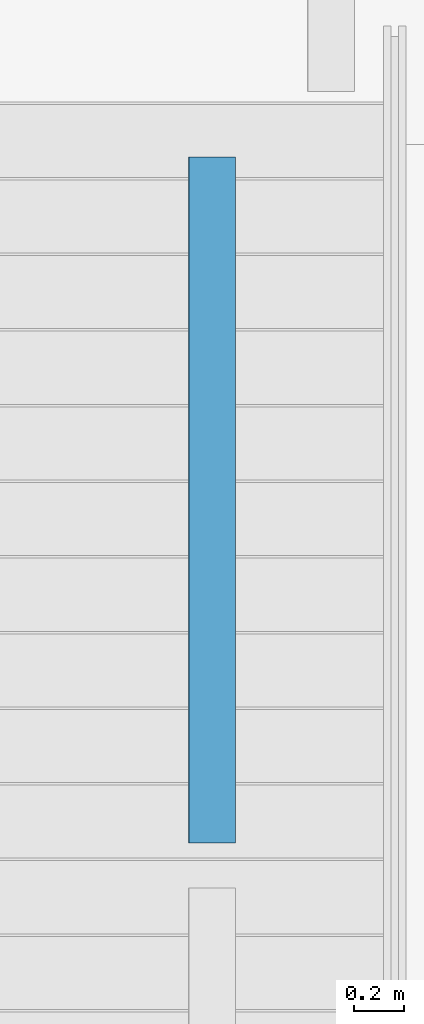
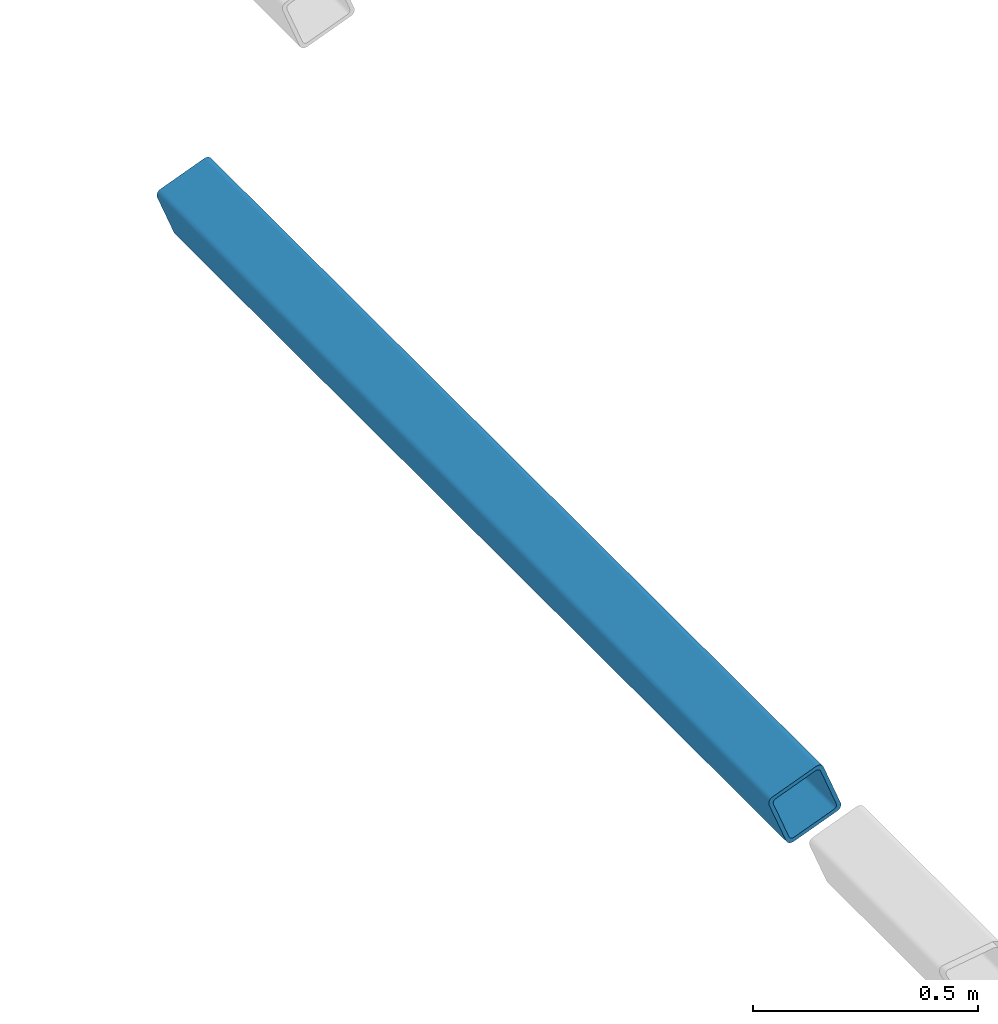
# One storey, part 27 of 42: 1 beam.
"""IFC2X3 building model written with IfcOpenShell, lengths in millimetres."""

import ifcopenshell
import ifcopenshell.guid

model = None  # the IFC model being written
_history = None  # IfcOwnerHistory: only IFC2X3 demands one
_inside = {}  # id of a spatial element -> (the spatial element, [elements in it])
_under = {}  # id of a project, library or spatial element -> (it, [spatial elements below it])
_declared = {}  # id of a project -> (the project, [libraries it declares])
_typed = {}  # id of a type object -> (the type object, [elements of that type])
_made_of = {}  # id of a material, layer set ... -> (it, [elements and type objects made of it])


def new_model(schema):
    """Start an empty IFC model of exactly this schema.

    Asked for "IFC4X3", IfcOpenShell would pick the latest addendum, in which some entities
    have other attributes; the version numbers below select the first issue.
    IFC2X3 requires an IfcOwnerHistory on every rooted entity: one is made here for all.
    """
    global model, _history
    if schema == "IFC4X3":
        model = ifcopenshell.file(schema_version=(4, 3, 0, 0))
    else:
        model = ifcopenshell.file(schema=schema)
    _inside.clear()
    _under.clear()
    _declared.clear()
    _typed.clear()
    _made_of.clear()
    _history = None
    if model.schema == "IFC2X3":
        org = make("IfcOrganization", Name="unknown")
        user = make(
            "IfcPersonAndOrganization",
            ThePerson=make("IfcPerson", FamilyName="unknown"),
            TheOrganization=org,
        )
        app = make(
            "IfcApplication",
            ApplicationDeveloper=org,
            Version="unknown",
            ApplicationFullName="unknown",
            ApplicationIdentifier="unknown",
        )
        _history = make(
            "IfcOwnerHistory",
            OwningUser=user,
            OwningApplication=app,
            ChangeAction="ADDED",
            CreationDate=0,
        )
    return model


def make(cls, **values):
    """One entity of the class cls with the attributes given. An attribute that is None is left unset."""
    return model.create_entity(
        cls, **{name: value for name, value in values.items() if value is not None}
    )


def entity(cls, *values):
    """Any entity or typed value of the class cls, its attributes in the order of the schema. None: left unset."""
    e = model.create_entity(cls)
    for i, value in enumerate(values):
        if value is not None:
            e[i] = value
    return e


def rooted(cls, **values):
    """An entity with a GlobalId (a new one), such as an element, a storey or a relation."""
    return make(cls, GlobalId=ifcopenshell.guid.new(), OwnerHistory=_history, **values)


def si_unit(unit_type, name, prefix=None):
    """IfcSIUnit, for example si_unit("LENGTHUNIT", "METRE", prefix="MILLI")."""
    return make("IfcSIUnit", UnitType=unit_type, Prefix=prefix, Name=name)


def converted_unit(unit_type, name, factor, base, dimensions=None, offset=None):
    """IfcConversionBasedUnit, such as the inch: factor (a typed value) times the base unit."""
    return make(
        "IfcConversionBasedUnit"
        if offset is None
        else "IfcConversionBasedUnitWithOffset",
        ConversionOffset=offset,
        Dimensions=None
        if dimensions is None
        else entity("IfcDimensionalExponents", *dimensions),
        UnitType=unit_type,
        Name=name,
        ConversionFactor=make(
            "IfcMeasureWithUnit", ValueComponent=factor, UnitComponent=base
        ),
    )


def derived_unit(unit_type, elements):
    """IfcDerivedUnit: a product of units, each with its exponent."""
    return make(
        "IfcDerivedUnit",
        Elements=[
            make("IfcDerivedUnitElement", Unit=unit, Exponent=power)
            for unit, power in elements
        ],
        UnitType=unit_type,
    )


def assignment(units):
    """IfcUnitAssignment: the units of a project."""
    return None if units is None else make("IfcUnitAssignment", Units=units)


def point(xyz):
    """IfcCartesianPoint."""
    return None if xyz is None else make("IfcCartesianPoint", Coordinates=xyz)


def direction(xyz):
    """IfcDirection."""
    return None if xyz is None else make("IfcDirection", DirectionRatios=xyz)


def frame(location, z_axis=None, x_axis=None):
    """IfcAxis2Placement3D, a coordinate frame: its origin and axes. An axis left out is left unset."""
    return make(
        "IfcAxis2Placement3D",
        Location=point(location),
        Axis=direction(z_axis),
        RefDirection=direction(x_axis),
    )


def frame_2d(location, x_axis=None):
    """IfcAxis2Placement2D, a coordinate frame in the plane: its origin and x axis."""
    return make(
        "IfcAxis2Placement2D", Location=point(location), RefDirection=direction(x_axis)
    )


def origin():
    """The frame at (0, 0, 0) with its axes left unset."""
    return frame((0.0, 0.0, 0.0))


def place(relative_to, where):
    """IfcLocalPlacement: puts the frame where relative to a parent placement (None: the world)."""
    return make(
        "IfcLocalPlacement", PlacementRelTo=relative_to, RelativePlacement=where
    )


def context(
    kind, dimensions, precision=None, world=None, true_north=None, identifier=None
):
    """IfcGeometricRepresentationContext, for example the 3D "Model" context."""
    return make(
        "IfcGeometricRepresentationContext",
        ContextIdentifier=identifier,
        ContextType=kind,
        CoordinateSpaceDimension=dimensions,
        Precision=precision,
        WorldCoordinateSystem=world,
        TrueNorth=true_north,
    )


def subcontext(parent, identifier, kind, view, scale=None):
    """IfcGeometricRepresentationSubContext, for example "Body" below "Model"."""
    return make(
        "IfcGeometricRepresentationSubContext",
        ContextIdentifier=identifier,
        ContextType=kind,
        ParentContext=parent,
        TargetScale=scale,
        TargetView=view,
    )


def project(units=None, contexts=None):
    """IfcProject with its units and contexts."""
    return rooted(
        "IfcProject",
        Name="project",
        RepresentationContexts=contexts,
        UnitsInContext=assignment(units),
    )


def spatial(cls, under=None, at=None, **own):
    """A site, building, storey or space (cls), placed at a placement, below another one or the project."""
    s = rooted(cls, ObjectPlacement=at, **own)
    if under is not None:
        _under.setdefault(under.id(), (under, []))[1].append(s)
    return s


def polyline(points):
    """IfcPolyline through the points."""
    return make("IfcPolyline", Points=[point(p) for p in points])


def circle_curve(where, radius):
    """IfcCircle in the frame where."""
    return make("IfcCircle", Position=where, Radius=radius)


def parameter(value):
    """IfcParameterValue: where a trimmed curve begins or ends, as a parameter of its basis curve."""
    return model.create_entity("IfcParameterValue", value)


def trimmed(basis, trim1, trim2, sense, master):
    """IfcTrimmedCurve: the piece of a basis curve between two trims."""
    return make(
        "IfcTrimmedCurve",
        BasisCurve=basis,
        Trim1=trim1,
        Trim2=trim2,
        SenseAgreement=sense,
        MasterRepresentation=master,
    )


def segment(curve, same_sense, transition):
    """IfcCompositeCurveSegment."""
    return make(
        "IfcCompositeCurveSegment",
        Transition=transition,
        SameSense=same_sense,
        ParentCurve=curve,
    )


def composite_curve(segments, self_intersect=None):
    """IfcCompositeCurve: segments joined end to end."""
    return make("IfcCompositeCurve", Segments=segments, SelfIntersect=self_intersect)


def outline(outer, holes=None, kind="AREA"):
    """IfcArbitraryClosedProfileDef: a profile drawn as a closed curve; with holes, ...WithVoids."""
    if holes is None:
        return make("IfcArbitraryClosedProfileDef", ProfileType=kind, OuterCurve=outer)
    return make(
        "IfcArbitraryProfileDefWithVoids",
        ProfileType=kind,
        OuterCurve=outer,
        InnerCurves=holes,
    )


def extrude(swept, where, along, depth):
    """IfcExtrudedAreaSolid: the profile swept, set in the frame where, extruded along a direction by depth."""
    return make(
        "IfcExtrudedAreaSolid",
        SweptArea=swept,
        Position=where,
        ExtrudedDirection=direction(along),
        Depth=depth,
    )


def shape(context_of_items, identifier, shape_type, items):
    """IfcShapeRepresentation: the items that make up one representation, for example the "Body"."""
    return make(
        "IfcShapeRepresentation",
        ContextOfItems=context_of_items,
        RepresentationIdentifier=identifier,
        RepresentationType=shape_type,
        Items=items,
    )


def material(Name=None, Category=None):
    """IfcMaterial."""
    return make("IfcMaterial", Name=Name, Category=Category)


def made_of(thing, what):
    """Note that an element or type object is made of a material, layer set ...; save() writes the relation."""
    if what is not None:
        _made_of.setdefault(what.id(), (what, []))[1].append(thing)
    return thing


def type_object(cls, material=None, **own):
    """A type object (cls), such as IfcWallType, which elements share."""
    return made_of(rooted(cls, **own), material)


def element(
    cls,
    number,
    at=None,
    inside=None,
    cuts=None,
    type_object=None,
    material=None,
    context=None,
    identifier="Body",
    shape_type=None,
    held_by="IfcProductDefinitionShape",
    body=None,
    shapes=None,
    **own,
):
    """One element of the class cls, such as IfcWall. Its Tag is "e" and its number.

    at: its placement. inside: the storey or other place that contains it. cuts: it is an
    opening in that element (IfcRelVoidsElement). A single representation is given by context,
    identifier, shape_type and body (its items); several are given by shapes. held_by: the class
    of the entity that holds the representations. save() writes the other relations.
    """
    e = rooted(cls, Tag="e%d" % number, ObjectPlacement=at, **own)
    if body is not None:
        shapes = [shape(context, identifier, shape_type, body)]
    if shapes is not None:
        e.Representation = make(held_by, Representations=shapes)
    if inside is not None:
        _inside.setdefault(inside.id(), (inside, []))[1].append(e)
    if cuts is not None:
        rooted(
            "IfcRelVoidsElement", RelatingBuildingElement=cuts, RelatedOpeningElement=e
        )
    if type_object is not None:
        _typed.setdefault(type_object.id(), (type_object, []))[1].append(e)
    return made_of(e, material)


def aggregate(whole, parts):
    """IfcRelAggregates: a whole, such as a stair, and the parts it consists of."""
    return rooted("IfcRelAggregates", RelatingObject=whole, RelatedObjects=parts)


def save(model, path):
    """Write the relations noted so far, then the file.

    IfcRelAggregates (storeys below a building ...), IfcRelContainedInSpatialStructure (elements
    in a storey), IfcRelDefinesByType, IfcRelAssociatesMaterial and IfcRelDeclares: one each for
    every whole, place, type object, material and project.
    """
    for whole, parts in _under.values():
        aggregate(whole, parts)
    for where, things in _inside.values():
        rooted(
            "IfcRelContainedInSpatialStructure",
            RelatedElements=things,
            RelatingStructure=where,
        )
    for kind, things in _typed.values():
        rooted("IfcRelDefinesByType", RelatedObjects=things, RelatingType=kind)
    for what, things in _made_of.values():
        rooted("IfcRelAssociatesMaterial", RelatedObjects=things, RelatingMaterial=what)
    for by, libraries in _declared.values():
        rooted("IfcRelDeclares", RelatingContext=by, RelatedDefinitions=libraries)
    model.write(path)


model = new_model("IFC2X3")

# Units and contexts
model_context = context("Model", 3, precision=0.01, world=origin(), true_north=direction((6.12303176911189e-17, 1.0)))
body_context = subcontext(model_context, "Body", "Model", "MODEL_VIEW")
ifc_project = project(units=[si_unit("LENGTHUNIT", "METRE", prefix="MILLI"), si_unit("AREAUNIT", "SQUARE_METRE", prefix="MILLI"), si_unit("VOLUMEUNIT", "CUBIC_METRE"), converted_unit("PLANEANGLEUNIT", "DEGREE", entity("IfcRatioMeasure", 0.0174532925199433), si_unit("PLANEANGLEUNIT", "RADIAN"), dimensions=[0, 0, 0, 0, 0, 0, 0]), si_unit("MASSUNIT", "GRAM", prefix="KILO"), derived_unit("MASSDENSITYUNIT", [(si_unit("MASSUNIT", "GRAM", prefix="KILO"), 1), (si_unit("LENGTHUNIT", "METRE"), -3)]), derived_unit("MOMENTOFINERTIAUNIT", [(si_unit("LENGTHUNIT", "METRE"), 4)]), si_unit("TIMEUNIT", "SECOND"), si_unit("FREQUENCYUNIT", "HERTZ"), si_unit("THERMODYNAMICTEMPERATUREUNIT", "DEGREE_CELSIUS"), derived_unit("THERMALTRANSMITTANCEUNIT", [(si_unit("MASSUNIT", "GRAM", prefix="KILO"), 1), (si_unit("THERMODYNAMICTEMPERATUREUNIT", "KELVIN"), -1), (si_unit("TIMEUNIT", "SECOND"), -3)]), derived_unit("VOLUMETRICFLOWRATEUNIT", [(si_unit("LENGTHUNIT", "METRE"), 3), (si_unit("TIMEUNIT", "SECOND"), -1)]), si_unit("ELECTRICCURRENTUNIT", "AMPERE"), si_unit("ELECTRICVOLTAGEUNIT", "VOLT"), si_unit("POWERUNIT", "WATT"), si_unit("FORCEUNIT", "NEWTON", prefix="KILO"), si_unit("ILLUMINANCEUNIT", "LUX"), si_unit("LUMINOUSFLUXUNIT", "LUMEN"), si_unit("LUMINOUSINTENSITYUNIT", "CANDELA"), derived_unit("USERDEFINED", [(si_unit("MASSUNIT", "GRAM", prefix="KILO"), -1), (si_unit("LENGTHUNIT", "METRE"), -2), (si_unit("TIMEUNIT", "SECOND"), 3), (si_unit("LUMINOUSFLUXUNIT", "LUMEN"), 1)]), derived_unit("LINEARVELOCITYUNIT", [(si_unit("LENGTHUNIT", "METRE"), 1), (si_unit("TIMEUNIT", "SECOND"), -1)]), si_unit("PRESSUREUNIT", "PASCAL"), derived_unit("USERDEFINED", [(si_unit("LENGTHUNIT", "METRE"), -2), (si_unit("MASSUNIT", "GRAM", prefix="KILO"), 1), (si_unit("TIMEUNIT", "SECOND"), -2)]), derived_unit("LINEARFORCEUNIT", [(si_unit("MASSUNIT", "GRAM", prefix="KILO"), 1), (si_unit("LENGTHUNIT", "METRE"), 1), (si_unit("TIMEUNIT", "SECOND"), -2), (si_unit("LENGTHUNIT", "METRE"), -1)]), derived_unit("PLANARFORCEUNIT", [(si_unit("MASSUNIT", "GRAM", prefix="KILO"), 1), (si_unit("LENGTHUNIT", "METRE"), 1), (si_unit("TIMEUNIT", "SECOND"), -2), (si_unit("LENGTHUNIT", "METRE"), -2)])], contexts=[model_context])

# Site, building, storey
site_placement = place(None, origin())
site = spatial("IfcSite", under=ifc_project, at=site_placement, Name="Theater aan de Parade", CompositionType="ELEMENT")
building_placement = place(site_placement, origin())
building = spatial("IfcBuilding", under=site, at=building_placement, Name="Theater aan de Parade", CompositionType="ELEMENT")
storey_placement = place(building_placement, frame((0.0, 0.0, -3300.0)))
storey = spatial("IfcBuildingStorey", under=building, at=storey_placement, Name="-1 kelder", CompositionType="ELEMENT", Elevation=-3300.0)

# Beam
ifc_material = material(Name="00_PBT_MAT_staal_S355")
beam_type = type_object("IfcBeamType", Name="28_PBT_SF_staal_koker:S355_K200x200x10", PredefinedType="NOTDEFINED")
beam_placement = place(storey_placement, frame((40358.411642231, 32540.0, 18742.0377397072), z_axis=(0.0, 0.0, 1.0), x_axis=(0.0, 1.0, 0.0)))
element("IfcBeam", 1, at=beam_placement, inside=storey, type_object=beam_type, material=ifc_material, Name="28_PBT_SF_staal_koker:S355_K200x200x10", ObjectType="28_PBT_SF_staal_koker:S355_K200x200x10", context=body_context, shape_type="SweptSolid", body=[
    extrude(outline(composite_curve([segment(trimmed(circle_curve(frame_2d((-60.0, -60.0), x_axis=(1.0, 0.0)), 15.0), [parameter(180.0)], [parameter(270.0)], True, "PARAMETER"), True, "CONTINUOUS"), segment(polyline([(-60.0, -75.0), (60.0, -75.0)]), True, "CONTINUOUS"), segment(trimmed(circle_curve(frame_2d((60.0, -60.0), x_axis=(1.0, 0.0)), 15.0), [parameter(270.0)], [parameter(0.0)], True, "PARAMETER"), True, "CONTINUOUS"), segment(polyline([(75.0, -60.0), (75.0, 60.0)]), True, "CONTINUOUS"), segment(trimmed(circle_curve(frame_2d((60.0, 60.0), x_axis=(1.0, 0.0)), 15.0), [parameter(3.56222124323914e-13)], [parameter(90.0000000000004)], True, "PARAMETER"), True, "CONTINUOUS"), segment(polyline([(60.0, 75.0), (-60.0, 75.0)]), True, "CONTINUOUS"), segment(trimmed(circle_curve(frame_2d((-60.0, 60.0), x_axis=(1.0, 0.0)), 15.0), [parameter(90.0)], [parameter(180.0)], True, "PARAMETER"), True, "CONTINUOUS"), segment(polyline([(-75.0, 60.0), (-75.0, -60.0)]), True, "CONTINUOUS")], self_intersect=False), holes=[composite_curve([segment(trimmed(circle_curve(frame_2d((55.0, 55.0), x_axis=(1.0, 0.0)), 10.0), [parameter(0.0)], [parameter(90.0000000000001)], True, "PARAMETER"), False, "CONTINUOUS"), segment(polyline([(65.0, 55.0), (65.0, -55.0)]), True, "CONTINUOUS"), segment(trimmed(circle_curve(frame_2d((55.0, -55.0), x_axis=(1.0, 0.0)), 10.0), [parameter(269.999999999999)], [parameter(360.0)], True, "PARAMETER"), False, "CONTINUOUS"), segment(polyline([(55.0, -65.0), (-55.0, -65.0)]), True, "CONTINUOUS"), segment(trimmed(circle_curve(frame_2d((-55.0, -55.0), x_axis=(1.0, 0.0)), 10.0), [parameter(180.0)], [parameter(270.0)], True, "PARAMETER"), False, "CONTINUOUS"), segment(polyline([(-65.0, -55.0), (-65.0, 55.0)]), True, "CONTINUOUS"), segment(trimmed(circle_curve(frame_2d((-55.0, 55.0), x_axis=(1.0, 0.0)), 10.0), [parameter(89.9999999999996)], [parameter(180.0)], True, "PARAMETER"), False, "CONTINUOUS"), segment(polyline([(-55.0, 65.0), (55.0, 65.0)]), True, "CONTINUOUS")], self_intersect=False)]), frame((0.0, -108.975369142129, -279.507368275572), z_axis=(1.0, 0.0, 0.0), x_axis=(0.0, 0.931691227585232, -0.363251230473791)), (0.0, 0.0, 1.0), 2719.51200857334),
])

save(model, "model.ifc")
